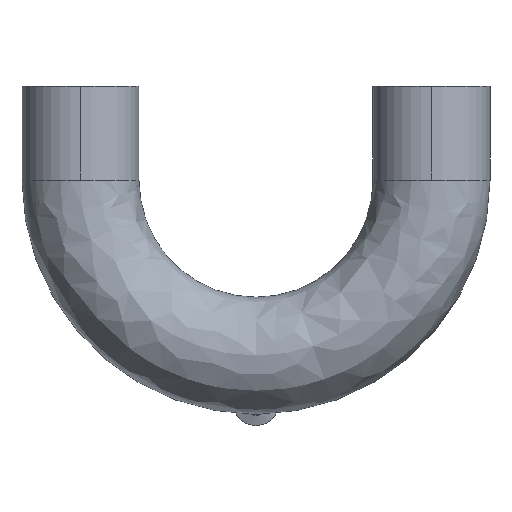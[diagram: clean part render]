
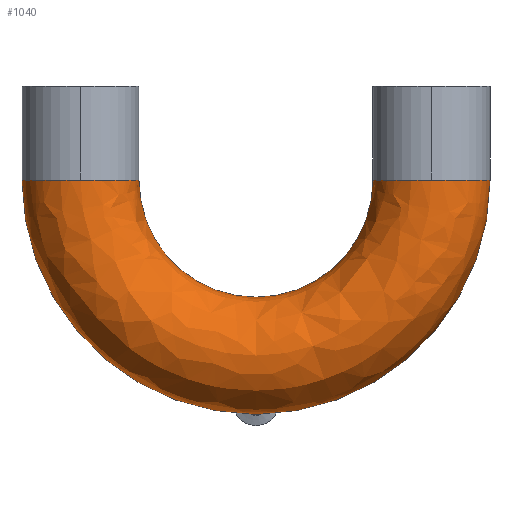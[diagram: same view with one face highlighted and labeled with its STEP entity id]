
A CAD part, top view. The second image highlights one B-rep face of the part: STEP entity #1040.
In plain terms, the highlighted free-form (B-spline) face has degree [3, 3] with [4, 4] control points.
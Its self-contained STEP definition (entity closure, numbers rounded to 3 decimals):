
#15 = DIRECTION ( 'NONE',  ( 0., 0., -1. ) ) ;
#67 = CIRCLE ( 'NONE', #852, 31.75 ) ;
#68 = VERTEX_POINT ( 'NONE', #601 ) ;
#153 = EDGE_CURVE ( 'NONE', #1112, #68, #332, .T. ) ;
#174 = VERTEX_POINT ( 'NONE', #175 ) ;
#175 = CARTESIAN_POINT ( 'NONE',  ( -63.5, 95.25, 0. ) ) ;
#192 = EDGE_CURVE ( 'NONE', #174, #1628, #946, .T. ) ;
#209 = CARTESIAN_POINT ( 'NONE',  ( 127., -158.75, 0. ) ) ;
#281 = AXIS2_PLACEMENT_3D ( 'NONE', #823, #15, #951 ) ;
#283 = CARTESIAN_POINT ( 'NONE',  ( 63.5, 95.25, 0. ) ) ;
#293 = ORIENTED_EDGE ( 'NONE', *, *, #192, .T. ) ;
#306 = CIRCLE ( 'NONE', #457, 127. ) ;
#332 = CIRCLE ( 'NONE', #876, 31.75 ) ;
#457 = AXIS2_PLACEMENT_3D ( 'NONE', #692, #1621, #829 ) ;
#467 = CARTESIAN_POINT ( 'NONE',  ( -63.5, 95.25, 0. ) ) ;
#474 = CARTESIAN_POINT ( 'NONE',  ( -63.5, -31.75, 0. ) ) ;
#528 = CARTESIAN_POINT ( 'NONE',  ( -95.25, 95.25, 0. ) ) ;
#535 = CARTESIAN_POINT ( 'NONE',  ( 0., 95.25, 0. ) ) ;
#544 = DIRECTION ( 'NONE',  ( 0., -1., 0. ) ) ;
#553 = ORIENTED_EDGE ( 'NONE', *, *, #1496, .F. ) ;
#555 = VERTEX_POINT ( 'NONE', #1182 ) ;
#558 = DIRECTION ( 'NONE',  ( 0., 0., -1. ) ) ;
#576 = AXIS2_PLACEMENT_3D ( 'NONE', #787, #1724, #919 ) ;
#589 = CARTESIAN_POINT ( 'NONE',  ( 63.5, -31.75, 0. ) ) ;
#597 = CARTESIAN_POINT ( 'NONE',  ( 63.5, 95.25, 0. ) ) ;
#601 = CARTESIAN_POINT ( 'NONE',  ( 95.25, 95.25, 31.75 ) ) ;
#649 = CARTESIAN_POINT ( 'NONE',  ( 127., 95.25, 0. ) ) ;
#692 = CARTESIAN_POINT ( 'NONE',  ( 0., 95.25, 0. ) ) ;
#736 = EDGE_CURVE ( 'NONE', #1462, #174, #1439, .T. ) ;
#741 = CARTESIAN_POINT ( 'NONE',  ( -63.5, 95.25, 63.5 ) ) ;
#748 = CARTESIAN_POINT ( 'NONE',  ( -63.5, -31.75, 63.5 ) ) ;
#772 = EDGE_CURVE ( 'NONE', #1628, #988, #67, .T. ) ;
#776 = AXIS2_PLACEMENT_3D ( 'NONE', #535, #558, #1612 ) ;
#779 = DIRECTION ( 'NONE',  ( -1., 0., 0. ) ) ;
#780 = ORIENTED_EDGE ( 'NONE', *, *, #153, .T. ) ;
#785 = ORIENTED_EDGE ( 'NONE', *, *, #1523, .F. ) ;
#787 = CARTESIAN_POINT ( 'NONE',  ( 95.25, 95.25, 0. ) ) ;
#823 = CARTESIAN_POINT ( 'NONE',  ( 0., 95.25, 0. ) ) ;
#824 = CIRCLE ( 'NONE', #576, 31.75 ) ;
#829 = DIRECTION ( 'NONE',  ( -1., 0., 0. ) ) ;
#851 = CARTESIAN_POINT ( 'NONE',  ( 63.5, -31.75, 63.5 ) ) ;
#852 = AXIS2_PLACEMENT_3D ( 'NONE', #1473, #1467, #1349 ) ;
#857 = CARTESIAN_POINT ( 'NONE',  ( 63.5, 95.25, 63.5 ) ) ;
#876 = AXIS2_PLACEMENT_3D ( 'NONE', #1486, #1447, #1434 ) ;
#916 = ORIENTED_EDGE ( 'NONE', *, *, #1378, .T. ) ;
#919 = DIRECTION ( 'NONE',  ( 1., 0., 0. ) ) ;
#946 = CIRCLE ( 'NONE', #1056, 31.75 ) ;
#951 = DIRECTION ( 'NONE',  ( -1., 0., 0. ) ) ;
#988 = VERTEX_POINT ( 'NONE', #1502 ) ;
#1016 = EDGE_LOOP ( 'NONE', ( #916, #1337, #293, #1597, #785, #553, #780 ) ) ;
#1040 = ADVANCED_FACE ( 'NONE', ( #1151 ), #1475, .T. ) ;
#1056 = AXIS2_PLACEMENT_3D ( 'NONE', #528, #544, #779 ) ;
#1112 = VERTEX_POINT ( 'NONE', #649 ) ;
#1128 = CARTESIAN_POINT ( 'NONE',  ( -127., 95.25, 63.5 ) ) ;
#1133 = CARTESIAN_POINT ( 'NONE',  ( -127., -158.75, 63.5 ) ) ;
#1151 = FACE_OUTER_BOUND ( 'NONE', #1016, .T. ) ;
#1182 = CARTESIAN_POINT ( 'NONE',  ( 0., -31.75, 0. ) ) ;
#1256 = CARTESIAN_POINT ( 'NONE',  ( 127., -158.75, 63.5 ) ) ;
#1337 = ORIENTED_EDGE ( 'NONE', *, *, #736, .T. ) ;
#1349 = DIRECTION ( 'NONE',  ( -1., 0., 0. ) ) ;
#1378 = EDGE_CURVE ( 'NONE', #68, #1462, #824, .T. ) ;
#1383 = CARTESIAN_POINT ( 'NONE',  ( 127., 95.25, 63.5 ) ) ;
#1434 = DIRECTION ( 'NONE',  ( 1., 0., 0. ) ) ;
#1439 = CIRCLE ( 'NONE', #776, 63.5 ) ;
#1447 = DIRECTION ( 'NONE',  ( 0., -1., 0. ) ) ;
#1462 = VERTEX_POINT ( 'NONE', #283 ) ;
#1467 = DIRECTION ( 'NONE',  ( 0., -1., 0. ) ) ;
#1473 = CARTESIAN_POINT ( 'NONE',  ( -95.25, 95.25, 0. ) ) ;
#1475 =( BOUNDED_SURFACE ( )  B_SPLINE_SURFACE ( 3, 3, ( 
 ( #1657, #209, #1644, #1531 ),
 ( #1383, #1256, #1133, #1128 ),
 ( #857, #851, #748, #741 ),
 ( #597, #589, #474, #467 ) ),
 .UNSPECIFIED., .F., .F., .T. ) 
 B_SPLINE_SURFACE_WITH_KNOTS ( ( 4, 4 ),
 ( 4, 4 ),
 ( 0., 1. ),
 ( 0., 1. ),
 .UNSPECIFIED. ) 
 GEOMETRIC_REPRESENTATION_ITEM ( )  RATIONAL_B_SPLINE_SURFACE ( (
 ( 1., 0.333, 0.333, 1.),
 ( 0.333, 0.111, 0.111, 0.333),
 ( 0.333, 0.111, 0.111, 0.333),
 ( 1., 0.333, 0.333, 1.) ) ) 
 REPRESENTATION_ITEM ( '' )  SURFACE ( )  );
#1486 = CARTESIAN_POINT ( 'NONE',  ( 95.25, 95.25, 0. ) ) ;
#1496 = EDGE_CURVE ( 'NONE', #1112, #555, #1725, .T. ) ;
#1500 = CARTESIAN_POINT ( 'NONE',  ( -95.25, 95.25, 31.75 ) ) ;
#1502 = CARTESIAN_POINT ( 'NONE',  ( -127., 95.25, 0. ) ) ;
#1523 = EDGE_CURVE ( 'NONE', #555, #988, #306, .T. ) ;
#1531 = CARTESIAN_POINT ( 'NONE',  ( -127., 95.25, 0. ) ) ;
#1597 = ORIENTED_EDGE ( 'NONE', *, *, #772, .T. ) ;
#1612 = DIRECTION ( 'NONE',  ( -1., 0., 0. ) ) ;
#1621 = DIRECTION ( 'NONE',  ( 0., 0., -1. ) ) ;
#1628 = VERTEX_POINT ( 'NONE', #1500 ) ;
#1644 = CARTESIAN_POINT ( 'NONE',  ( -127., -158.75, 0. ) ) ;
#1657 = CARTESIAN_POINT ( 'NONE',  ( 127., 95.25, 0. ) ) ;
#1724 = DIRECTION ( 'NONE',  ( 0., -1., 0. ) ) ;
#1725 = CIRCLE ( 'NONE', #281, 127. ) ;
